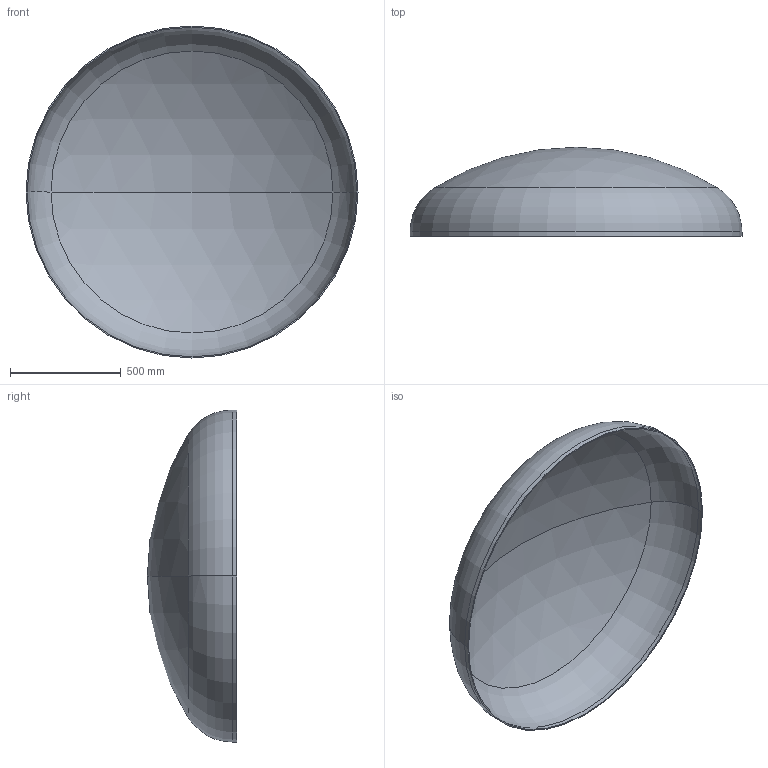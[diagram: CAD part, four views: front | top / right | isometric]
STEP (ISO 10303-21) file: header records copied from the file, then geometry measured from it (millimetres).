
FILE_DESCRIPTION (( 'STEP AP203' ), '1' );
FILE_NAME ('DIN 28013 Korbbogenform_-_Boden DIN 28013 - 1500 x 20 - I - s=5.step', '2016-07-01T10:33:28', ( '' ), ( '' ), 'SwSTEP 2.0', 'SolidWorks 2013', '' );
FILE_SCHEMA (( 'CONFIG_CONTROL_DESIGN' ));
Length unit declared in the file: millimetre
Products named in the file (1): DIN 28013 Korbbogenform_-_Boden DIN 28013 - 1500 x 20 - I - s=5
Bounding box: 1500 x 403.01 x 1500 mm (x, y, z)
Volume: 12643738.9 mm3; surface area: 5081029.3 mm2
Topology: 1 solids, 1 shells, 13 faces, 24 edges, 14 vertices
Faces by surface type: torus 4, cylinder 4, sphere 4, plane 1
Entity records: 407 total; most frequent: DIRECTION 72, CARTESIAN_POINT 52, ORIENTED_EDGE 48, AXIS2_PLACEMENT_3D 34, EDGE_CURVE 24, CIRCLE 20, EDGE_LOOP 14, VERTEX_POINT 14
